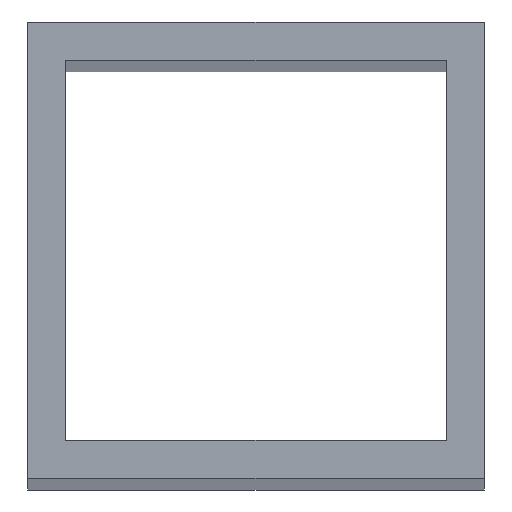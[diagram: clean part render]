
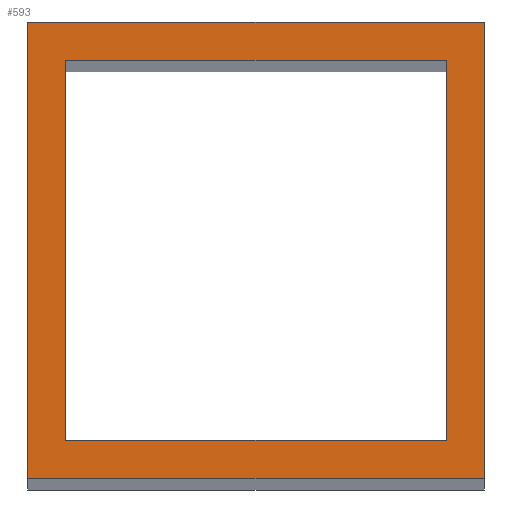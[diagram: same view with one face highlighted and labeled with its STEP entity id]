
A CAD part, top view. The second image highlights one B-rep face of the part: STEP entity #593.
In plain terms, the highlighted planar face has unit normal (0, 0, 1).
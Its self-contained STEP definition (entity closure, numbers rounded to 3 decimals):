
#1 = VECTOR ( 'NONE', #1020, 1000. ) ;
#10 = CARTESIAN_POINT ( 'NONE',  ( 0., 0., 180. ) ) ;
#12 = EDGE_CURVE ( 'NONE', #298, #294, #775, .T. ) ;
#14 = CARTESIAN_POINT ( 'NONE',  ( 0., 12., 180. ) ) ;
#56 = LINE ( 'NONE', #283, #300 ) ;
#64 = CARTESIAN_POINT ( 'NONE',  ( 12., 0., 180. ) ) ;
#72 = VECTOR ( 'NONE', #1355, 1000. ) ;
#132 = FACE_BOUND ( 'NONE', #380, .T. ) ;
#159 = CARTESIAN_POINT ( 'NONE',  ( 0., 0., 180. ) ) ;
#172 = LINE ( 'NONE', #392, #374 ) ;
#197 = DIRECTION ( 'NONE',  ( -1., 0., 0. ) ) ;
#207 = DIRECTION ( 'NONE',  ( 1., 0., 0. ) ) ;
#222 = CARTESIAN_POINT ( 'NONE',  ( 1., 11., 180. ) ) ;
#238 = EDGE_CURVE ( 'NONE', #294, #1354, #372, .T. ) ;
#271 = CARTESIAN_POINT ( 'NONE',  ( 12., 0., 180. ) ) ;
#283 = CARTESIAN_POINT ( 'NONE',  ( 1., 1., 180. ) ) ;
#294 = VERTEX_POINT ( 'NONE', #1103 ) ;
#298 = VERTEX_POINT ( 'NONE', #458 ) ;
#300 = VECTOR ( 'NONE', #409, 1000. ) ;
#302 = VECTOR ( 'NONE', #197, 1000. ) ;
#367 = VERTEX_POINT ( 'NONE', #591 ) ;
#372 = LINE ( 'NONE', #159, #1 ) ;
#374 = VECTOR ( 'NONE', #818, 1000. ) ;
#379 = LINE ( 'NONE', #271, #419 ) ;
#380 = EDGE_LOOP ( 'NONE', ( #1300, #1392, #727, #997 ) ) ;
#391 = ORIENTED_EDGE ( 'NONE', *, *, #238, .T. ) ;
#392 = CARTESIAN_POINT ( 'NONE',  ( 0., 0., 180. ) ) ;
#400 = EDGE_CURVE ( 'NONE', #868, #298, #379, .T. ) ;
#403 = EDGE_CURVE ( 'NONE', #367, #913, #56, .T. ) ;
#406 = CARTESIAN_POINT ( 'NONE',  ( 11., 11., 180. ) ) ;
#409 = DIRECTION ( 'NONE',  ( 0., -1., 0. ) ) ;
#419 = VECTOR ( 'NONE', #705, 1000. ) ;
#450 = ORIENTED_EDGE ( 'NONE', *, *, #477, .T. ) ;
#454 = DIRECTION ( 'NONE',  ( -1., 0., 0. ) ) ;
#458 = CARTESIAN_POINT ( 'NONE',  ( 12., 12., 180. ) ) ;
#462 = EDGE_CURVE ( 'NONE', #1198, #658, #1260, .T. ) ;
#477 = EDGE_CURVE ( 'NONE', #1354, #868, #172, .T. ) ;
#501 = DIRECTION ( 'NONE',  ( -1., 0., 0. ) ) ;
#563 = PLANE ( 'NONE',  #1319 ) ;
#591 = CARTESIAN_POINT ( 'NONE',  ( 1., 11., 180. ) ) ;
#593 = ADVANCED_FACE ( 'NONE', ( #851, #132 ), #563, .F. ) ;
#596 = VECTOR ( 'NONE', #207, 1000. ) ;
#658 = VERTEX_POINT ( 'NONE', #406 ) ;
#705 = DIRECTION ( 'NONE',  ( 0., 1., 0. ) ) ;
#727 = ORIENTED_EDGE ( 'NONE', *, *, #794, .F. ) ;
#775 = LINE ( 'NONE', #14, #932 ) ;
#794 = EDGE_CURVE ( 'NONE', #658, #367, #974, .T. ) ;
#813 = CARTESIAN_POINT ( 'NONE',  ( 1., 1., 180. ) ) ;
#818 = DIRECTION ( 'NONE',  ( 1., 0., 0. ) ) ;
#819 = CARTESIAN_POINT ( 'NONE',  ( 11., 1., 180. ) ) ;
#851 = FACE_OUTER_BOUND ( 'NONE', #1086, .T. ) ;
#868 = VERTEX_POINT ( 'NONE', #64 ) ;
#913 = VERTEX_POINT ( 'NONE', #813 ) ;
#932 = VECTOR ( 'NONE', #454, 1000. ) ;
#974 = LINE ( 'NONE', #222, #302 ) ;
#997 = ORIENTED_EDGE ( 'NONE', *, *, #462, .F. ) ;
#1020 = DIRECTION ( 'NONE',  ( 0., -1., 0. ) ) ;
#1038 = DIRECTION ( 'NONE',  ( 0., 0., -1. ) ) ;
#1086 = EDGE_LOOP ( 'NONE', ( #391, #450, #1335, #1310 ) ) ;
#1103 = CARTESIAN_POINT ( 'NONE',  ( 0., 12., 180. ) ) ;
#1198 = VERTEX_POINT ( 'NONE', #819 ) ;
#1233 = CARTESIAN_POINT ( 'NONE',  ( 11., 1., 180. ) ) ;
#1257 = EDGE_CURVE ( 'NONE', #913, #1198, #1276, .T. ) ;
#1260 = LINE ( 'NONE', #1233, #72 ) ;
#1276 = LINE ( 'NONE', #1397, #596 ) ;
#1300 = ORIENTED_EDGE ( 'NONE', *, *, #1257, .F. ) ;
#1310 = ORIENTED_EDGE ( 'NONE', *, *, #12, .T. ) ;
#1319 = AXIS2_PLACEMENT_3D ( 'NONE', #1323, #1038, #501 ) ;
#1323 = CARTESIAN_POINT ( 'NONE',  ( 0., 0., 180. ) ) ;
#1335 = ORIENTED_EDGE ( 'NONE', *, *, #400, .T. ) ;
#1354 = VERTEX_POINT ( 'NONE', #10 ) ;
#1355 = DIRECTION ( 'NONE',  ( 0., 1., 0. ) ) ;
#1392 = ORIENTED_EDGE ( 'NONE', *, *, #403, .F. ) ;
#1397 = CARTESIAN_POINT ( 'NONE',  ( 1., 1., 180. ) ) ;
